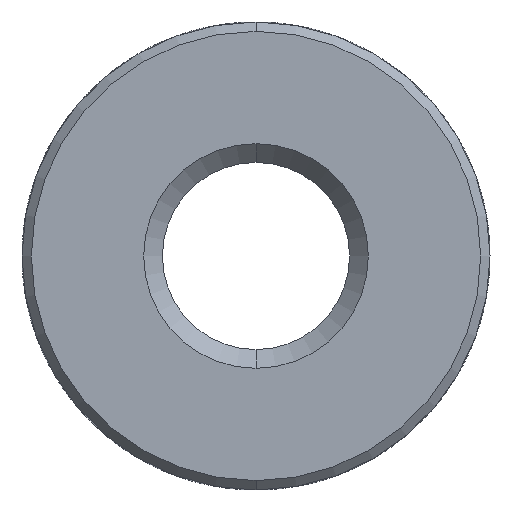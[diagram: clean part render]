
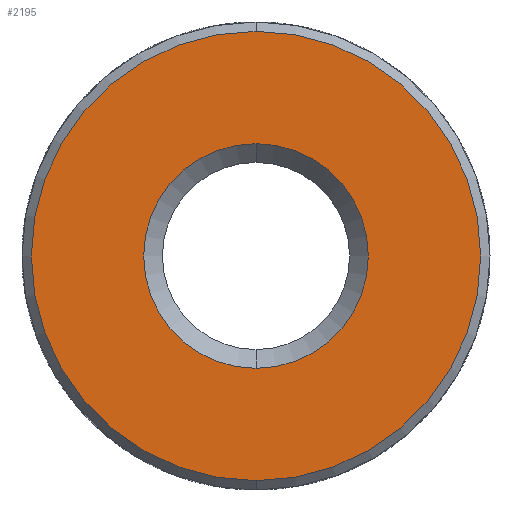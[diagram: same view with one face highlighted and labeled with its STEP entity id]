
A CAD part, front view. The second image highlights one B-rep face of the part: STEP entity #2195.
In plain terms, the highlighted planar face has unit normal (0, -1, 0).
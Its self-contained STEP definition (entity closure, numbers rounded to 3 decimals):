
#370 = CIRCLE ( 'NONE', #1634, 1.2 ) ;
#705 = VERTEX_POINT ( 'NONE', #3566 ) ;
#766 = DIRECTION ( 'NONE',  ( 0., -1., 0. ) ) ;
#790 = DIRECTION ( 'NONE',  ( 0., 1., 0. ) ) ;
#898 = CIRCLE ( 'NONE', #4459, 2.4 ) ;
#1026 = ORIENTED_EDGE ( 'NONE', *, *, #3440, .T. ) ;
#1421 = EDGE_CURVE ( 'NONE', #3907, #4309, #370, .T. ) ;
#1453 = ORIENTED_EDGE ( 'NONE', *, *, #1421, .T. ) ;
#1602 = DIRECTION ( 'NONE',  ( 0., 0., -1. ) ) ;
#1634 = AXIS2_PLACEMENT_3D ( 'NONE', #2017, #790, #1602 ) ;
#1897 = FACE_BOUND ( 'NONE', #4813, .T. ) ;
#2017 = CARTESIAN_POINT ( 'NONE',  ( 0., -4., 0. ) ) ;
#2031 = CARTESIAN_POINT ( 'NONE',  ( 0., -4., -2.4 ) ) ;
#2133 = AXIS2_PLACEMENT_3D ( 'NONE', #2779, #5302, #2793 ) ;
#2181 = DIRECTION ( 'NONE',  ( 0., 0., -1. ) ) ;
#2195 = ADVANCED_FACE ( 'NONE', ( #2423, #1897 ), #5237, .T. ) ;
#2423 = FACE_OUTER_BOUND ( 'NONE', #4642, .T. ) ;
#2499 = CIRCLE ( 'NONE', #3558, 2.4 ) ;
#2573 = CARTESIAN_POINT ( 'NONE',  ( 0., -4., 0. ) ) ;
#2648 = ORIENTED_EDGE ( 'NONE', *, *, #3692, .T. ) ;
#2769 = CARTESIAN_POINT ( 'NONE',  ( 0., -4., 2.5 ) ) ;
#2779 = CARTESIAN_POINT ( 'NONE',  ( 0., -4., 0. ) ) ;
#2793 = DIRECTION ( 'NONE',  ( 0., 0., -1. ) ) ;
#2966 = CARTESIAN_POINT ( 'NONE',  ( 0., -4., 1.2 ) ) ;
#3113 = DIRECTION ( 'NONE',  ( 0., 0., -1. ) ) ;
#3167 = DIRECTION ( 'NONE',  ( 0., -1., 0. ) ) ;
#3229 = DIRECTION ( 'NONE',  ( 0., 0., -1. ) ) ;
#3434 = CIRCLE ( 'NONE', #2133, 1.2 ) ;
#3440 = EDGE_CURVE ( 'NONE', #4309, #3907, #3434, .T. ) ;
#3558 = AXIS2_PLACEMENT_3D ( 'NONE', #3613, #766, #3229 ) ;
#3566 = CARTESIAN_POINT ( 'NONE',  ( 0., -4., 2.4 ) ) ;
#3576 = CARTESIAN_POINT ( 'NONE',  ( 0., -4., -1.2 ) ) ;
#3613 = CARTESIAN_POINT ( 'NONE',  ( 0., -4., 0. ) ) ;
#3692 = EDGE_CURVE ( 'NONE', #705, #4803, #898, .T. ) ;
#3802 = ORIENTED_EDGE ( 'NONE', *, *, #4047, .T. ) ;
#3907 = VERTEX_POINT ( 'NONE', #3576 ) ;
#4047 = EDGE_CURVE ( 'NONE', #4803, #705, #2499, .T. ) ;
#4246 = DIRECTION ( 'NONE',  ( 0., -1., 0. ) ) ;
#4309 = VERTEX_POINT ( 'NONE', #2966 ) ;
#4459 = AXIS2_PLACEMENT_3D ( 'NONE', #2573, #4246, #2181 ) ;
#4642 = EDGE_LOOP ( 'NONE', ( #2648, #3802 ) ) ;
#4803 = VERTEX_POINT ( 'NONE', #2031 ) ;
#4813 = EDGE_LOOP ( 'NONE', ( #1453, #1026 ) ) ;
#5130 = AXIS2_PLACEMENT_3D ( 'NONE', #2769, #3167, #3113 ) ;
#5237 = PLANE ( 'NONE',  #5130 ) ;
#5302 = DIRECTION ( 'NONE',  ( 0., 1., 0. ) ) ;
